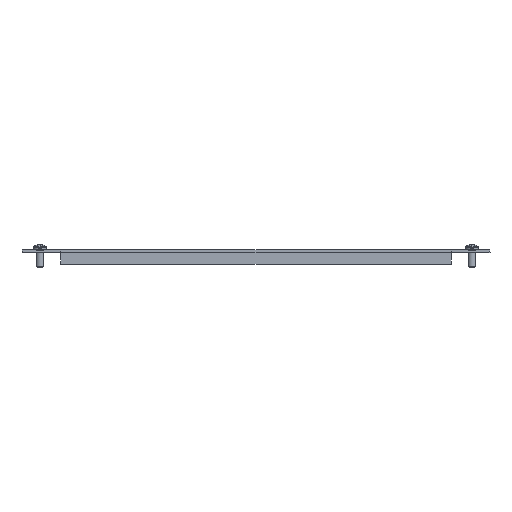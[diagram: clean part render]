
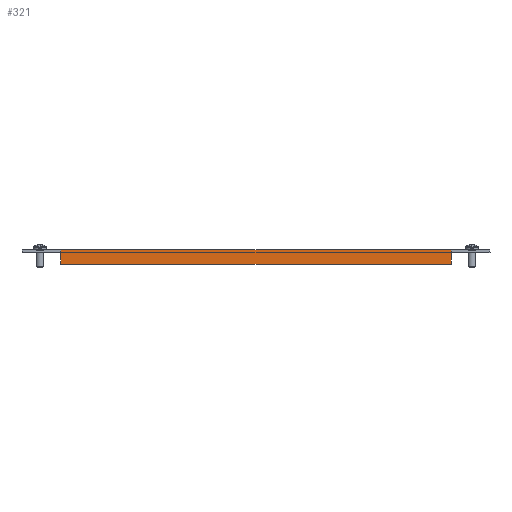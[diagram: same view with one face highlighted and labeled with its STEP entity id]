
A CAD part, front view. The second image highlights one B-rep face of the part: STEP entity #321.
In plain terms, the highlighted planar face has unit normal (0, -1, 0).
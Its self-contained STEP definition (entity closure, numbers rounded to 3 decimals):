
#29 = ORIENTED_EDGE ( 'NONE', *, *, #4211, .F. ) ;
#201 = ORIENTED_EDGE ( 'NONE', *, *, #1314, .F. ) ;
#288 = EDGE_LOOP ( 'NONE', ( #4093, #3757, #4147, #201, #1393, #29 ) ) ;
#321 = ADVANCED_FACE ( 'NONE', ( #1931 ), #3521, .T. ) ;
#402 = DIRECTION ( 'NONE',  ( 0., 0., -1. ) ) ;
#559 = VECTOR ( 'NONE', #402, 1000. ) ;
#993 = VECTOR ( 'NONE', #5730, 1000. ) ;
#1314 = EDGE_CURVE ( 'NONE', #3354, #6598, #1538, .T. ) ;
#1393 = ORIENTED_EDGE ( 'NONE', *, *, #4956, .F. ) ;
#1456 = VECTOR ( 'NONE', #2458, 1000. ) ;
#1500 = LINE ( 'NONE', #4585, #993 ) ;
#1538 = LINE ( 'NONE', #4154, #5102 ) ;
#1574 = DIRECTION ( 'NONE',  ( 0., 0., -1. ) ) ;
#1699 = VERTEX_POINT ( 'NONE', #4214 ) ;
#1735 = CARTESIAN_POINT ( 'NONE',  ( 135.5, -835., -2.4 ) ) ;
#1931 = FACE_OUTER_BOUND ( 'NONE', #288, .T. ) ;
#2051 = CARTESIAN_POINT ( 'NONE',  ( -135.5, -835., -2.4 ) ) ;
#2458 = DIRECTION ( 'NONE',  ( 0., 0., 1. ) ) ;
#2470 = DIRECTION ( 'NONE',  ( 0., -1., 0. ) ) ;
#2478 = AXIS2_PLACEMENT_3D ( 'NONE', #5172, #2470, #1574 ) ;
#2886 = CARTESIAN_POINT ( 'NONE',  ( 0., -835., 0. ) ) ;
#3143 = EDGE_CURVE ( 'NONE', #5975, #5117, #3454, .T. ) ;
#3354 = VERTEX_POINT ( 'NONE', #2051 ) ;
#3454 = LINE ( 'NONE', #4628, #559 ) ;
#3521 = PLANE ( 'NONE',  #2478 ) ;
#3542 = CARTESIAN_POINT ( 'NONE',  ( 135.5, -835., -2.4 ) ) ;
#3757 = ORIENTED_EDGE ( 'NONE', *, *, #4554, .T. ) ;
#3860 = VERTEX_POINT ( 'NONE', #6307 ) ;
#4093 = ORIENTED_EDGE ( 'NONE', *, *, #3143, .F. ) ;
#4147 = ORIENTED_EDGE ( 'NONE', *, *, #6377, .T. ) ;
#4154 = CARTESIAN_POINT ( 'NONE',  ( -135.5, -835., 0. ) ) ;
#4211 = EDGE_CURVE ( 'NONE', #5117, #3860, #1500, .T. ) ;
#4214 = CARTESIAN_POINT ( 'NONE',  ( 135.5, -835., 0. ) ) ;
#4259 = CARTESIAN_POINT ( 'NONE',  ( 135.5, -835., -10. ) ) ;
#4443 = DIRECTION ( 'NONE',  ( -1., 0., 0. ) ) ;
#4554 = EDGE_CURVE ( 'NONE', #5975, #1699, #5049, .T. ) ;
#4585 = CARTESIAN_POINT ( 'NONE',  ( -135.5, -835., -10. ) ) ;
#4628 = CARTESIAN_POINT ( 'NONE',  ( 135.5, -835., -10. ) ) ;
#4956 = EDGE_CURVE ( 'NONE', #3860, #3354, #6614, .T. ) ;
#5049 = LINE ( 'NONE', #3542, #1456 ) ;
#5102 = VECTOR ( 'NONE', #5625, 1000. ) ;
#5107 = CARTESIAN_POINT ( 'NONE',  ( -135.5, -835., -1.8 ) ) ;
#5117 = VERTEX_POINT ( 'NONE', #4259 ) ;
#5172 = CARTESIAN_POINT ( 'NONE',  ( 0., -835., 0. ) ) ;
#5269 = VECTOR ( 'NONE', #4443, 1000. ) ;
#5605 = DIRECTION ( 'NONE',  ( 0., 0., 1. ) ) ;
#5625 = DIRECTION ( 'NONE',  ( 0., 0., 1. ) ) ;
#5730 = DIRECTION ( 'NONE',  ( -1., 0., 0. ) ) ;
#5975 = VERTEX_POINT ( 'NONE', #1735 ) ;
#6037 = VECTOR ( 'NONE', #5605, 1000. ) ;
#6109 = LINE ( 'NONE', #2886, #5269 ) ;
#6179 = CARTESIAN_POINT ( 'NONE',  ( -135.5, -835., 0. ) ) ;
#6307 = CARTESIAN_POINT ( 'NONE',  ( -135.5, -835., -10. ) ) ;
#6377 = EDGE_CURVE ( 'NONE', #1699, #6598, #6109, .T. ) ;
#6598 = VERTEX_POINT ( 'NONE', #6179 ) ;
#6614 = LINE ( 'NONE', #5107, #6037 ) ;
